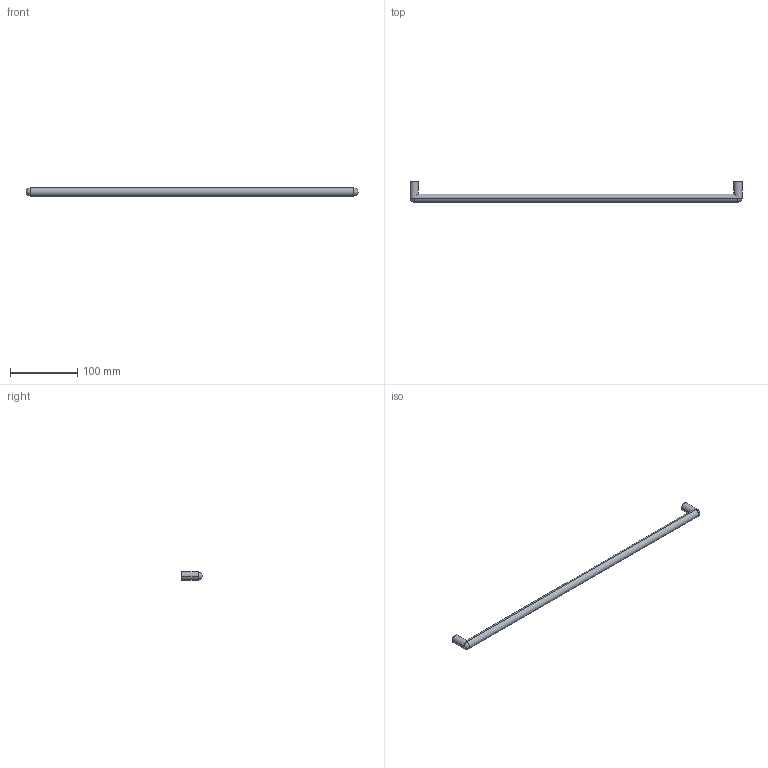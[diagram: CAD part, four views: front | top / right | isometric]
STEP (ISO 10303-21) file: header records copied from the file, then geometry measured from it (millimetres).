
FILE_DESCRIPTION( ( '' ), '1' );
FILE_NAME( 'D:/1.AUTOCAD EXPORT/Group 10/sheet_10_1/ 9071000.stp', '2013-10-17T08:27:27', ( '' ), ( '' ), ' ', ' ', ' ' );
FILE_SCHEMA( ( 'automotive_design' ) );
Length unit declared in the file: millimetre
Products named in the file (1): 1
Bounding box: 492 x 30 x 12 mm (x, y, z)
Volume: 59199.1 mm3; surface area: 20383.7 mm2
Topology: 1 solids, 1 shells, 16 faces, 36 edges, 20 vertices
Faces by surface type: cylinder 10, plane 4, sphere 2
Entity records: 838 total; most frequent: DIRECTION 88, STYLED_ITEM 69, PRESENTATION_STYLE_ASSIGNMENT 69, CARTESIAN_POINT 69, COLOUR_RGB 69, ORIENTED_EDGE 64, AXIS2_PLACEMENT_3D 39, EDGE_CURVE 32
